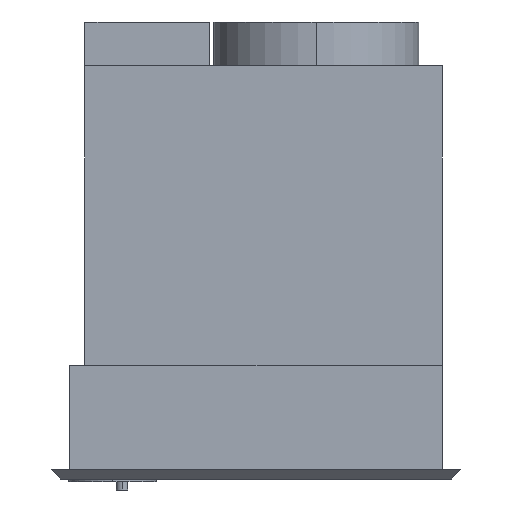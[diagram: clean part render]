
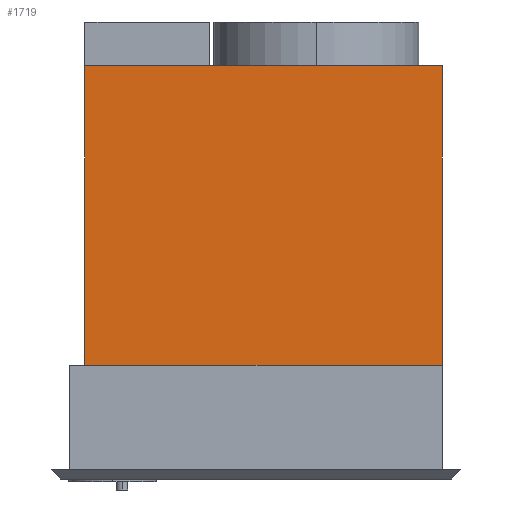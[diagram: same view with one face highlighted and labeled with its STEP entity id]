
A CAD part, left-side view. The second image highlights one B-rep face of the part: STEP entity #1719.
In plain terms, the highlighted planar face has unit normal (-1, 0, 0).
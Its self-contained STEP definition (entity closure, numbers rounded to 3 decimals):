
#1296=CARTESIAN_POINT('Line Origine',(-130.5,-136.,192.5)) ;
#1300=CARTESIAN_POINT('Vertex',(-130.5,-136.,83.)) ;
#1302=CARTESIAN_POINT('Vertex',(-130.5,-136.,302.)) ;
#1610=CARTESIAN_POINT('Vertex',(-130.5,125.,302.)) ;
#1613=CARTESIAN_POINT('Line Origine',(-130.5,-5.5,302.)) ;
#1680=CARTESIAN_POINT('Line Origine',(-130.5,-5.5,83.)) ;
#1684=CARTESIAN_POINT('Vertex',(-130.5,125.,83.)) ;
#1703=CARTESIAN_POINT('Axis2P3D Location',(-130.5,-136.,83.)) ;
#1708=CARTESIAN_POINT('Line Origine',(-130.5,125.,192.5)) ;
#1297=DIRECTION('Vector Direction',(0.,0.,1.)) ;
#1614=DIRECTION('Vector Direction',(0.,1.,0.)) ;
#1681=DIRECTION('Vector Direction',(0.,1.,0.)) ;
#1704=DIRECTION('Axis2P3D Direction',(1.,0.,0.)) ;
#1705=DIRECTION('Axis2P3D XDirection',(0.,1.,0.)) ;
#1709=DIRECTION('Vector Direction',(0.,0.,1.)) ;
#1706=AXIS2_PLACEMENT_3D('Plane Axis2P3D',#1703,#1704,#1705) ;
#1714=ORIENTED_EDGE('',*,*,#1712,.F.) ;
#1715=ORIENTED_EDGE('',*,*,#1686,.T.) ;
#1716=ORIENTED_EDGE('',*,*,#1304,.T.) ;
#1717=ORIENTED_EDGE('',*,*,#1617,.F.) ;
#1298=VECTOR('Line Direction',#1297,1.) ;
#1615=VECTOR('Line Direction',#1614,1.) ;
#1682=VECTOR('Line Direction',#1681,1.) ;
#1710=VECTOR('Line Direction',#1709,1.) ;
#1719=ADVANCED_FACE('Assieme',(#1718),#1707,.F.) ;
#1304=EDGE_CURVE('',#1301,#1303,#1299,.T.) ;
#1617=EDGE_CURVE('',#1611,#1303,#1616,.F.) ;
#1686=EDGE_CURVE('',#1685,#1301,#1683,.F.) ;
#1712=EDGE_CURVE('',#1685,#1611,#1711,.T.) ;
#1713=EDGE_LOOP('',(#1714,#1715,#1716,#1717)) ;
#1718=FACE_OUTER_BOUND('',#1713,.T.) ;
#1299=LINE('Line',#1296,#1298) ;
#1616=LINE('Line',#1613,#1615) ;
#1683=LINE('Line',#1680,#1682) ;
#1711=LINE('Line',#1708,#1710) ;
#1707=PLANE('',#1706) ;
#1301=VERTEX_POINT('',#1300) ;
#1303=VERTEX_POINT('',#1302) ;
#1611=VERTEX_POINT('',#1610) ;
#1685=VERTEX_POINT('',#1684) ;
